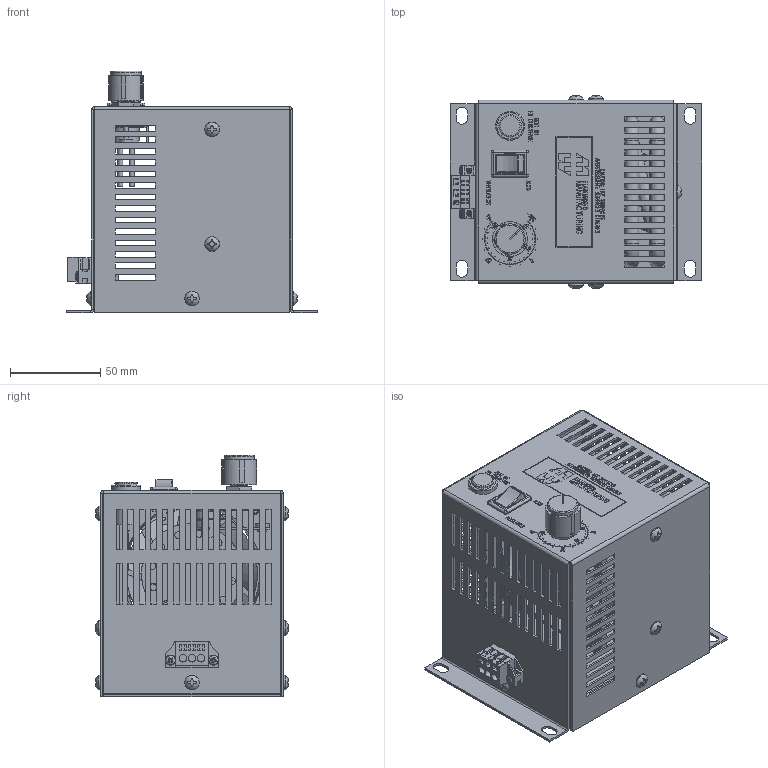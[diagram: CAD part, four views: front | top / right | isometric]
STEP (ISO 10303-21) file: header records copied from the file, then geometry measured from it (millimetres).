
FILE_DESCRIPTION((''),'2;1');
FILE_NAME('E:\Manufacturing\drawings\Updated 2011\Fan Heater (Hammond)\STEP''s\Fan Heater 125,200 230V.stp','2011-01-17T15:33:47',('tfoster'),(''),'Autodesk Inventor 2011','Autodesk Inventor 2011','');
FILE_SCHEMA(('AUTOMOTIVE_DESIGN { 1 0 10303 214 1 1 1 1 }'));
Length unit declared in the file: inch
Products named in the file (18): Fan Heater 125,200 230V; Cover Case 125,200; Fan-Element Bracket; Coil 125,200; 80 mm Fan Assembly; 80 mm Fan base; 80 mm fan insert; #8-32 x .25 Screw; Snap-Action thermostat; #8 x .250 Self-Tapping Screw; Base Plate 125,200; Connector 230V; #4-40 x 0 5 screw; Light; Switch; thermostat nut; Thermostat; Knob
Assembly tree (32 placements, depth 3):
  Fan Heater 125,200 230V
    Cover Case 125,200
    Fan-Element Bracket
    Coil 125,200
    80 mm Fan Assembly
      80 mm Fan base
      80 mm fan insert
    #8-32 x .25 Screw  x8
    Snap-Action thermostat
    #8 x .250 Self-Tapping Screw  x8
    Base Plate 125,200
    Connector 230V
    #4-40 x 0 5 screw  x2
    Light
    Switch
    thermostat nut
    Thermostat
    Knob
Bounding box: 139.06 x 107.14 x 133.86 mm (x, y, z)
Volume: 297446 mm3; surface area: 252115.1 mm2
Topology: 31 solids, 31 shells, 4894 faces, 16749 edges, 14281 vertices
Faces by surface type: plane 4086, cylinder 421, bspline 174, cone 126, torus 55, sphere 32
Full cylindrical faces by diameter (mm): 1.676 x2, 1.778 x5, 2.159 x2, 2.54 x1, 2.667 x4, 3.048 x2, 3.302 x6, 3.48 x8, 3.5 x4, 3.81 x1, 4 x12, 4.191 x3, 4.318 x2, 4.445 x1, 4.5 x8, 4.623 x8, 4.801 x2, 5 x1, 5.156 x4, 5.563 x2, 6.35 x1, 7.62 x1, 8.001 x8, 8.179 x8, 9.728 x1, 11.836 x1, 12.446 x2, 12.7 x1, 14.224 x3, 14.605 x1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
Entity records: 170982 total; most frequent: CARTESIAN_POINT 35456, ORIENTED_EDGE 24416, DIRECTION 23261, VECTOR 12697, LINE 12697, EDGE_CURVE 12208, VERTEX_POINT 8216, AXIS2_PLACEMENT_3D 5282
